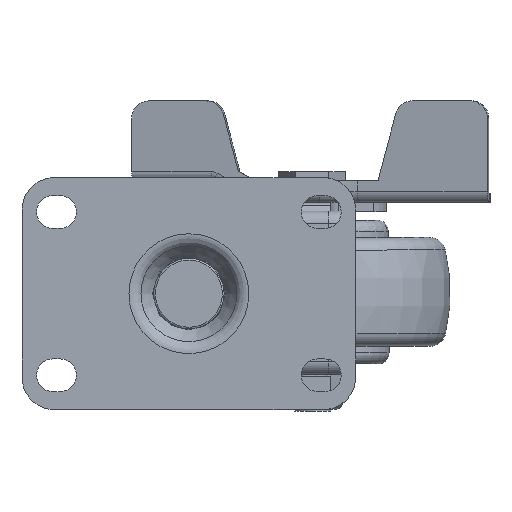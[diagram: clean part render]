
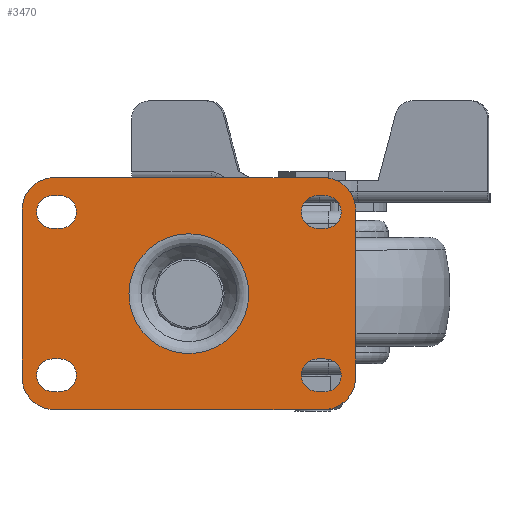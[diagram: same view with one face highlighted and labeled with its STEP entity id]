
A CAD part, top view. The second image highlights one B-rep face of the part: STEP entity #3470.
In plain terms, the highlighted planar face has unit normal (0, 0, 1).
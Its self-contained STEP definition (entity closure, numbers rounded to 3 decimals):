
#1220=LINE('',#22318,#1816);
#1221=LINE('',#22323,#1817);
#1222=LINE('',#22326,#1818);
#1223=LINE('',#22331,#1819);
#1224=LINE('',#22334,#1820);
#1225=LINE('',#22339,#1821);
#1226=LINE('',#22342,#1822);
#1227=LINE('',#22347,#1823);
#1228=LINE('',#22350,#1824);
#1229=LINE('',#22353,#1825);
#1230=LINE('',#22357,#1826);
#1231=LINE('',#22361,#1827);
#1232=LINE('',#22363,#1828);
#1233=LINE('',#22367,#1829);
#1816=VECTOR('',#15238,1.);
#1817=VECTOR('',#15241,1.);
#1818=VECTOR('',#15244,1.);
#1819=VECTOR('',#15247,1.);
#1820=VECTOR('',#15250,1.);
#1821=VECTOR('',#15253,1.);
#1822=VECTOR('',#15256,1.);
#1823=VECTOR('',#15259,1.);
#1824=VECTOR('',#15262,1.);
#1825=VECTOR('',#15263,1.);
#1826=VECTOR('',#15266,1.);
#1827=VECTOR('',#15269,1.);
#1828=VECTOR('',#15270,1.);
#1829=VECTOR('',#15273,1.);
#2229=PLANE('',#12612);
#3470=ADVANCED_FACE('',(#3906,#3907,#3908,#3909,#3910,#3911),#2229,.F.);
#3906=FACE_BOUND('',#4709,.T.);
#3907=FACE_BOUND('',#4710,.T.);
#3908=FACE_BOUND('',#4711,.T.);
#3909=FACE_BOUND('',#4712,.T.);
#3910=FACE_BOUND('',#4713,.T.);
#3911=FACE_BOUND('',#4714,.T.);
#4709=EDGE_LOOP('',(#7487));
#4710=EDGE_LOOP('',(#7488,#7489,#7490,#7491));
#4711=EDGE_LOOP('',(#7492,#7493,#7494,#7495));
#4712=EDGE_LOOP('',(#7496,#7497,#7498,#7499));
#4713=EDGE_LOOP('',(#7500,#7501,#7502,#7503));
#4714=EDGE_LOOP('',(#7504,#7505,#7506,#7507,#7508,#7509,#7510,#7511,#7512,
#7513));
#7487=ORIENTED_EDGE('',*,*,#10774,.T.);
#7488=ORIENTED_EDGE('',*,*,#10775,.F.);
#7489=ORIENTED_EDGE('',*,*,#10776,.F.);
#7490=ORIENTED_EDGE('',*,*,#10777,.F.);
#7491=ORIENTED_EDGE('',*,*,#10778,.F.);
#7492=ORIENTED_EDGE('',*,*,#10779,.F.);
#7493=ORIENTED_EDGE('',*,*,#10780,.F.);
#7494=ORIENTED_EDGE('',*,*,#10781,.F.);
#7495=ORIENTED_EDGE('',*,*,#10782,.F.);
#7496=ORIENTED_EDGE('',*,*,#10783,.F.);
#7497=ORIENTED_EDGE('',*,*,#10784,.F.);
#7498=ORIENTED_EDGE('',*,*,#10785,.F.);
#7499=ORIENTED_EDGE('',*,*,#10786,.F.);
#7500=ORIENTED_EDGE('',*,*,#10787,.F.);
#7501=ORIENTED_EDGE('',*,*,#10788,.F.);
#7502=ORIENTED_EDGE('',*,*,#10789,.F.);
#7503=ORIENTED_EDGE('',*,*,#10790,.F.);
#7504=ORIENTED_EDGE('',*,*,#10791,.T.);
#7505=ORIENTED_EDGE('',*,*,#10792,.T.);
#7506=ORIENTED_EDGE('',*,*,#10793,.T.);
#7507=ORIENTED_EDGE('',*,*,#10794,.T.);
#7508=ORIENTED_EDGE('',*,*,#10795,.T.);
#7509=ORIENTED_EDGE('',*,*,#10796,.T.);
#7510=ORIENTED_EDGE('',*,*,#10797,.T.);
#7511=ORIENTED_EDGE('',*,*,#10798,.T.);
#7512=ORIENTED_EDGE('',*,*,#10799,.T.);
#7513=ORIENTED_EDGE('',*,*,#10800,.T.);
#9204=VERTEX_POINT('',#22316);
#9205=VERTEX_POINT('',#22319);
#9206=VERTEX_POINT('',#22320);
#9207=VERTEX_POINT('',#22322);
#9208=VERTEX_POINT('',#22324);
#9209=VERTEX_POINT('',#22327);
#9210=VERTEX_POINT('',#22328);
#9211=VERTEX_POINT('',#22330);
#9212=VERTEX_POINT('',#22332);
#9213=VERTEX_POINT('',#22335);
#9214=VERTEX_POINT('',#22336);
#9215=VERTEX_POINT('',#22338);
#9216=VERTEX_POINT('',#22340);
#9217=VERTEX_POINT('',#22343);
#9218=VERTEX_POINT('',#22344);
#9219=VERTEX_POINT('',#22346);
#9220=VERTEX_POINT('',#22348);
#9221=VERTEX_POINT('',#22351);
#9222=VERTEX_POINT('',#22352);
#9223=VERTEX_POINT('',#22354);
#9224=VERTEX_POINT('',#22356);
#9225=VERTEX_POINT('',#22358);
#9226=VERTEX_POINT('',#22360);
#9227=VERTEX_POINT('',#22362);
#9228=VERTEX_POINT('',#22364);
#9229=VERTEX_POINT('',#22366);
#9230=VERTEX_POINT('',#22368);
#10774=EDGE_CURVE('',#9204,#9204,#11534,.T.);
#10775=EDGE_CURVE('',#9205,#9206,#1220,.T.);
#10776=EDGE_CURVE('',#9207,#9205,#11535,.T.);
#10777=EDGE_CURVE('',#9208,#9207,#1221,.T.);
#10778=EDGE_CURVE('',#9206,#9208,#11536,.T.);
#10779=EDGE_CURVE('',#9209,#9210,#1222,.T.);
#10780=EDGE_CURVE('',#9211,#9209,#11537,.T.);
#10781=EDGE_CURVE('',#9212,#9211,#1223,.T.);
#10782=EDGE_CURVE('',#9210,#9212,#11538,.T.);
#10783=EDGE_CURVE('',#9213,#9214,#1224,.T.);
#10784=EDGE_CURVE('',#9215,#9213,#11539,.T.);
#10785=EDGE_CURVE('',#9216,#9215,#1225,.T.);
#10786=EDGE_CURVE('',#9214,#9216,#11540,.T.);
#10787=EDGE_CURVE('',#9217,#9218,#1226,.T.);
#10788=EDGE_CURVE('',#9219,#9217,#11541,.T.);
#10789=EDGE_CURVE('',#9220,#9219,#1227,.T.);
#10790=EDGE_CURVE('',#9218,#9220,#11542,.T.);
#10791=EDGE_CURVE('',#9221,#9222,#1228,.T.);
#10792=EDGE_CURVE('',#9222,#9223,#1229,.T.);
#10793=EDGE_CURVE('',#9223,#9224,#11543,.T.);
#10794=EDGE_CURVE('',#9224,#9225,#1230,.T.);
#10795=EDGE_CURVE('',#9225,#9226,#11544,.T.);
#10796=EDGE_CURVE('',#9226,#9227,#1231,.T.);
#10797=EDGE_CURVE('',#9227,#9228,#1232,.T.);
#10798=EDGE_CURVE('',#9228,#9229,#11545,.T.);
#10799=EDGE_CURVE('',#9229,#9230,#1233,.T.);
#10800=EDGE_CURVE('',#9230,#9221,#11546,.T.);
#11534=CIRCLE('',#12598,16.522);
#11535=CIRCLE('',#12600,4.5);
#11536=CIRCLE('',#12601,4.5);
#11537=CIRCLE('',#12602,4.5);
#11538=CIRCLE('',#12603,4.5);
#11539=CIRCLE('',#12604,4.5);
#11540=CIRCLE('',#12605,4.5);
#11541=CIRCLE('',#12606,4.5);
#11542=CIRCLE('',#12607,4.5);
#11543=CIRCLE('',#12608,9.);
#11544=CIRCLE('',#12609,9.);
#11545=CIRCLE('',#12610,9.);
#11546=CIRCLE('',#12611,9.);
#12598=AXIS2_PLACEMENT_3D('',#22315,#15234,#15235);
#12600=AXIS2_PLACEMENT_3D('',#22321,#15239,#15240);
#12601=AXIS2_PLACEMENT_3D('',#22325,#15242,#15243);
#12602=AXIS2_PLACEMENT_3D('',#22329,#15245,#15246);
#12603=AXIS2_PLACEMENT_3D('',#22333,#15248,#15249);
#12604=AXIS2_PLACEMENT_3D('',#22337,#15251,#15252);
#12605=AXIS2_PLACEMENT_3D('',#22341,#15254,#15255);
#12606=AXIS2_PLACEMENT_3D('',#22345,#15257,#15258);
#12607=AXIS2_PLACEMENT_3D('',#22349,#15260,#15261);
#12608=AXIS2_PLACEMENT_3D('',#22355,#15264,#15265);
#12609=AXIS2_PLACEMENT_3D('',#22359,#15267,#15268);
#12610=AXIS2_PLACEMENT_3D('',#22365,#15271,#15272);
#12611=AXIS2_PLACEMENT_3D('',#22369,#15274,#15275);
#12612=AXIS2_PLACEMENT_3D('',#22370,#15276,#15277);
#15234=DIRECTION('',(0.,0.,-1.));
#15235=DIRECTION('',(1.,0.,0.));
#15238=DIRECTION('',(-1.,0.,0.));
#15239=DIRECTION('',(0.,0.,1.));
#15240=DIRECTION('',(-1.,0.,0.));
#15241=DIRECTION('',(1.,0.,0.));
#15242=DIRECTION('',(0.,0.,1.));
#15243=DIRECTION('',(-1.,0.,0.));
#15244=DIRECTION('',(-1.,0.,0.));
#15245=DIRECTION('',(0.,0.,1.));
#15246=DIRECTION('',(-1.,0.,0.));
#15247=DIRECTION('',(1.,0.,0.));
#15248=DIRECTION('',(0.,0.,1.));
#15249=DIRECTION('',(-1.,0.,0.));
#15250=DIRECTION('',(-1.,0.,0.));
#15251=DIRECTION('',(0.,0.,1.));
#15252=DIRECTION('',(-1.,0.,0.));
#15253=DIRECTION('',(1.,0.,0.));
#15254=DIRECTION('',(0.,0.,1.));
#15255=DIRECTION('',(-1.,0.,0.));
#15256=DIRECTION('',(-1.,0.,0.));
#15257=DIRECTION('',(0.,0.,1.));
#15258=DIRECTION('',(-1.,0.,0.));
#15259=DIRECTION('',(1.,0.,0.));
#15260=DIRECTION('',(0.,0.,1.));
#15261=DIRECTION('',(-1.,0.,0.));
#15262=DIRECTION('',(1.,0.,0.));
#15263=DIRECTION('',(1.,0.,0.));
#15264=DIRECTION('',(0.,0.,1.));
#15265=DIRECTION('',(-1.,0.,0.));
#15266=DIRECTION('',(0.,1.,0.));
#15267=DIRECTION('',(0.,0.,1.));
#15268=DIRECTION('',(-1.,0.,0.));
#15269=DIRECTION('',(-1.,0.,0.));
#15270=DIRECTION('',(-1.,0.,0.));
#15271=DIRECTION('',(0.,0.,1.));
#15272=DIRECTION('',(1.,0.,0.));
#15273=DIRECTION('',(0.,-1.,0.));
#15274=DIRECTION('',(0.,0.,1.));
#15275=DIRECTION('',(1.,0.,0.));
#15276=DIRECTION('',(0.,0.,-1.));
#15277=DIRECTION('',(-1.,0.,0.));
#22315=CARTESIAN_POINT('',(0.,0.,0.));
#22316=CARTESIAN_POINT('',(16.522,0.,0.));
#22318=CARTESIAN_POINT('',(37.5,-18.,0.));
#22319=CARTESIAN_POINT('',(37.5,-18.,0.));
#22320=CARTESIAN_POINT('',(35.5,-18.,0.));
#22321=CARTESIAN_POINT('',(37.5,-22.5,0.));
#22322=CARTESIAN_POINT('',(37.5,-27.,0.));
#22323=CARTESIAN_POINT('',(37.5,-27.,0.));
#22324=CARTESIAN_POINT('',(35.5,-27.,0.));
#22325=CARTESIAN_POINT('',(35.5,-22.5,0.));
#22326=CARTESIAN_POINT('',(37.5,27.,0.));
#22327=CARTESIAN_POINT('',(37.5,27.,0.));
#22328=CARTESIAN_POINT('',(35.5,27.,0.));
#22329=CARTESIAN_POINT('',(37.5,22.5,0.));
#22330=CARTESIAN_POINT('',(37.5,18.,0.));
#22331=CARTESIAN_POINT('',(37.5,18.,0.));
#22332=CARTESIAN_POINT('',(35.5,18.,0.));
#22333=CARTESIAN_POINT('',(35.5,22.5,0.));
#22334=CARTESIAN_POINT('',(-35.5,27.,0.));
#22335=CARTESIAN_POINT('',(-35.5,27.,0.));
#22336=CARTESIAN_POINT('',(-37.5,27.,0.));
#22337=CARTESIAN_POINT('',(-35.5,22.5,0.));
#22338=CARTESIAN_POINT('',(-35.5,18.,0.));
#22339=CARTESIAN_POINT('',(-35.5,18.,0.));
#22340=CARTESIAN_POINT('',(-37.5,18.,0.));
#22341=CARTESIAN_POINT('',(-37.5,22.5,0.));
#22342=CARTESIAN_POINT('',(-35.5,-18.,0.));
#22343=CARTESIAN_POINT('',(-35.5,-18.,0.));
#22344=CARTESIAN_POINT('',(-37.5,-18.,0.));
#22345=CARTESIAN_POINT('',(-35.5,-22.5,0.));
#22346=CARTESIAN_POINT('',(-35.5,-27.,0.));
#22347=CARTESIAN_POINT('',(-35.5,-27.,0.));
#22348=CARTESIAN_POINT('',(-37.5,-27.,0.));
#22349=CARTESIAN_POINT('',(-37.5,-22.5,0.));
#22350=CARTESIAN_POINT('',(37.,-32.,0.));
#22351=CARTESIAN_POINT('',(-37.,-32.,0.));
#22352=CARTESIAN_POINT('',(0.,-32.,0.));
#22353=CARTESIAN_POINT('',(37.,-32.,0.));
#22354=CARTESIAN_POINT('',(37.,-32.,0.));
#22355=CARTESIAN_POINT('',(37.,-23.,0.));
#22356=CARTESIAN_POINT('',(46.,-23.,0.));
#22357=CARTESIAN_POINT('',(46.,-23.,0.));
#22358=CARTESIAN_POINT('',(46.,23.,0.));
#22359=CARTESIAN_POINT('',(37.,23.,0.));
#22360=CARTESIAN_POINT('',(37.,32.,0.));
#22361=CARTESIAN_POINT('',(37.,32.,0.));
#22362=CARTESIAN_POINT('',(0.,32.,0.));
#22363=CARTESIAN_POINT('',(37.,32.,0.));
#22364=CARTESIAN_POINT('',(-37.,32.,0.));
#22365=CARTESIAN_POINT('',(-37.,23.,0.));
#22366=CARTESIAN_POINT('',(-46.,23.,0.));
#22367=CARTESIAN_POINT('',(-46.,-23.,0.));
#22368=CARTESIAN_POINT('',(-46.,-23.,0.));
#22369=CARTESIAN_POINT('',(-37.,-23.,0.));
#22370=CARTESIAN_POINT('',(32.,0.,0.));
